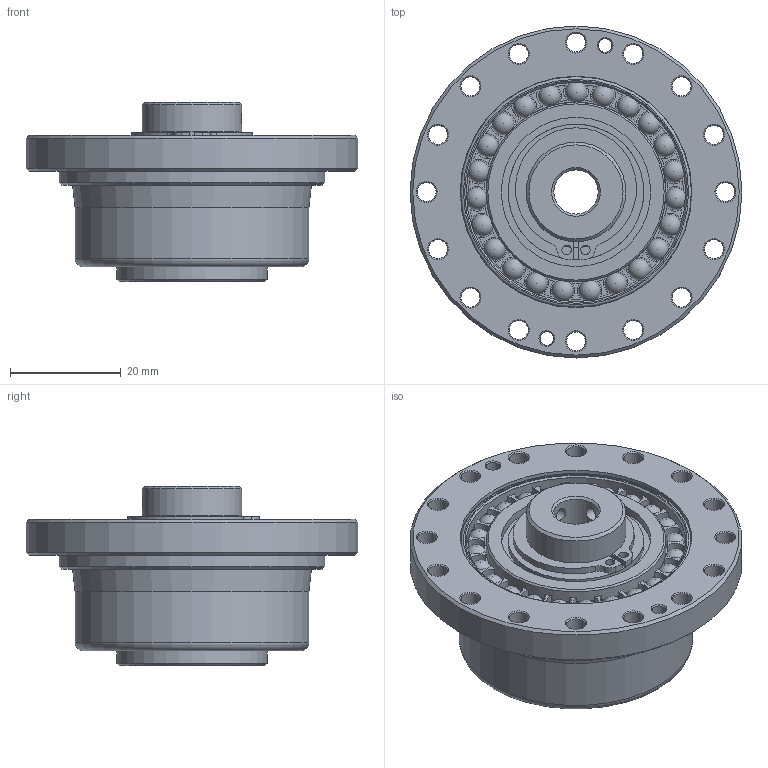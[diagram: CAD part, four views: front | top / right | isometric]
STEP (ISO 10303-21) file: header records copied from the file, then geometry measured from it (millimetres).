
FILE_DESCRIPTION(/* description */ (''),/* implementation_level */ '2;1');
FILE_NAME(/* name */ '\\hiwin.tw\dfs\TB00F\研發課二組\\X2\6A5F5BC67D1A\X0\\97.同仁共享區 (機密級)\H11\\X2\6B236021\X0\\2023專案追蹤\2.型錄\\X2\6A21578B\X0\\DGC-CO\DGC-17-XX-CO.stp',/* time_stamp */ '2024-10-22T11:47:13+08:00',/* author */ ('ted40524246.cheng'),/* organization */ (''),/* preprocessor_version */ 'ST-DEVELOPER v15.2',/* originating_system */ 'Autodesk Inventor 2014',/* authorisation */ '');
FILE_SCHEMA (('AUTOMOTIVE_DESIGN { 1 0 10303 214 3 1 1 }'));
Length unit declared in the file: centimetre
Products named in the file (1): DGC-17-XX-CO
Bounding box: 60 x 60 x 32.5 mm (x, y, z)
Volume: 27077.5 mm3; surface area: 17896.7 mm2
Topology: 1 solids, 1 shells, 350 faces, 885 edges, 545 vertices
Faces by surface type: cylinder 145, plane 67, cone 66, torus 49, sphere 23
Full cylindrical faces by diameter (mm): 1.7 x2, 2.459 x6, 3.4 x16, 5.5 x6, 8 x1, 10 x1, 17 x1, 18 x1, 20.051 x1, 24.5 x1, 27 x1, 27.2 x1, 29.8 x1, 32.46 x1, 39.66 x1, 41.72 x2, 42.28 x1, 48 x1, 60 x1
Entity records: 9805 total; most frequent: DIRECTION 1900, CARTESIAN_POINT 1605, ORIENTED_EDGE 1410, AXIS2_PLACEMENT_3D 896, EDGE_CURVE 659, EDGE_LOOP 560, CIRCLE 545, VERTEX_POINT 459
